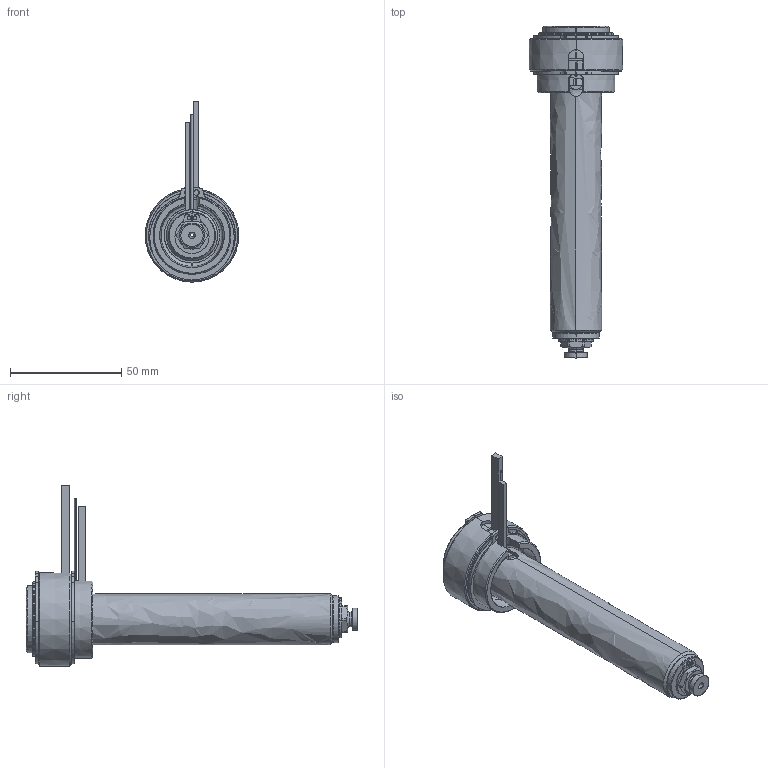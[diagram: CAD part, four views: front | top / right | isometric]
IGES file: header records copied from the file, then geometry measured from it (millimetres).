
Start section: SolidWorks IGES file using analytic representation for surfaces
Global section: file name: C:\Users\luca.EMPAD\Desktop\TEM\UGBE3503-M-A-5 [Ød-1.5 P-0 ØC-7.0].IGS; native system: SolidWorks 2012; preprocessor: SolidWorks 2012; author: luca; date: 120330.140501; units: millimetre
Bounding box: 42 x 149 x 80.9 mm (x, y, z)
Surface area: 37009.2 mm2 (no closed solid volume)
Topology: 0 solids, 0 shells, 184 faces, 3318 edges, 3318 vertices
Faces by surface type: revolution 116, bspline 68
